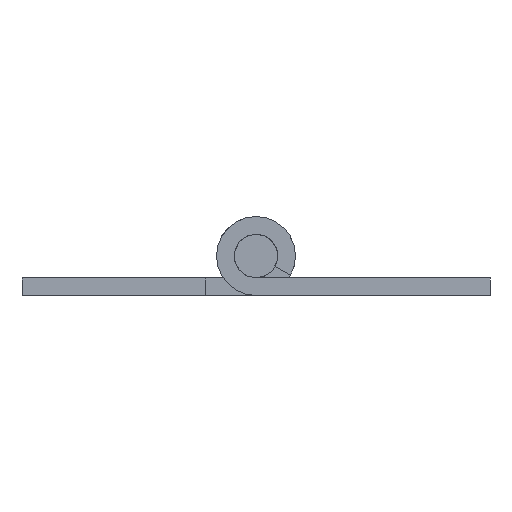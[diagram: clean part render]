
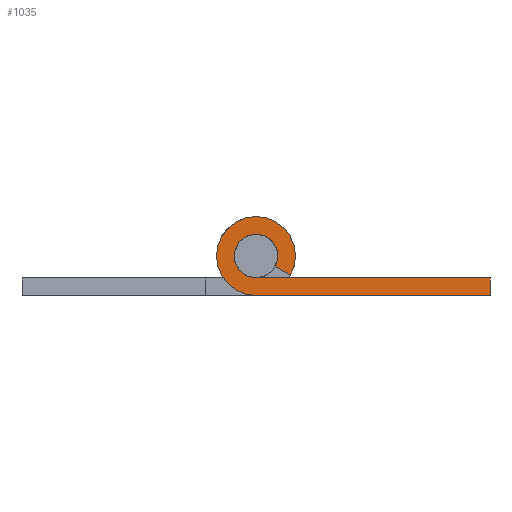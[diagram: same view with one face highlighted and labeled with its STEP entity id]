
A CAD part, front view. The second image highlights one B-rep face of the part: STEP entity #1035.
In plain terms, the highlighted planar face has unit normal (0, -1, 0).
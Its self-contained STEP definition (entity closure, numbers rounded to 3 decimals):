
#1035=ADVANCED_FACE('',(#2310),#2311,.T.);
#2310=FACE_OUTER_BOUND('',#3827,.T.);
#2311=PLANE('',#3828);
#3827=EDGE_LOOP('',(#7062,#7063,#7064,#7065,#7066,#7067,#7068,#7069));
#3828=AXIS2_PLACEMENT_3D('',#7070,#7071,#7072);
#7062=ORIENTED_EDGE('',*,*,#10527,.F.);
#7063=ORIENTED_EDGE('',*,*,#10544,.T.);
#7064=ORIENTED_EDGE('',*,*,#10361,.T.);
#7065=ORIENTED_EDGE('',*,*,#9561,.T.);
#7066=ORIENTED_EDGE('',*,*,#10540,.T.);
#7067=ORIENTED_EDGE('',*,*,#10535,.T.);
#7068=ORIENTED_EDGE('',*,*,#9556,.T.);
#7069=ORIENTED_EDGE('',*,*,#10542,.T.);
#7070=CARTESIAN_POINT('',(22.65,-900.0,0.));
#7071=DIRECTION('',(0.,-1.0,0.));
#7072=DIRECTION('',(0.0,0.,-1.0));
#9556=EDGE_CURVE('',#11547,#11544,#11548,.T.);
#9561=EDGE_CURVE('',#11556,#11553,#11557,.T.);
#10361=EDGE_CURVE('',#12832,#11556,#12833,.T.);
#10527=EDGE_CURVE('',#13007,#13009,#13010,.T.);
#10535=EDGE_CURVE('',#13019,#11547,#13020,.T.);
#10540=EDGE_CURVE('',#11553,#13019,#13025,.T.);
#10542=EDGE_CURVE('',#11544,#13009,#13027,.T.);
#10544=EDGE_CURVE('',#13007,#12832,#13029,.T.);
#11544=VERTEX_POINT('',#14519);
#11547=VERTEX_POINT('',#14523);
#11548=CIRCLE('',#14524,2.7);
#11553=VERTEX_POINT('',#14530);
#11556=VERTEX_POINT('',#14534);
#11557=CIRCLE('',#14535,1.5);
#12832=VERTEX_POINT('',#16224);
#12833=LINE('',#16225,#16226);
#13007=VERTEX_POINT('',#16469);
#13009=VERTEX_POINT('',#16472);
#13010=LINE('',#16473,#16474);
#13019=VERTEX_POINT('',#16486);
#13020=LINE('',#16487,#16488);
#13025=CIRCLE('',#16494,1.5);
#13027=CIRCLE('',#16496,2.7);
#13029=LINE('',#16498,#16499);
#14519=CARTESIAN_POINT('',(6.65,-900.0,5.4));
#14523=CARTESIAN_POINT('',(9.011,-900.0,1.391));
#14524=AXIS2_PLACEMENT_3D('',#18479,#18480,#18481);
#14530=CARTESIAN_POINT('',(6.65,-900.0,4.2));
#14534=CARTESIAN_POINT('',(6.65,-900.0,1.2));
#14535=AXIS2_PLACEMENT_3D('',#18487,#18488,#18489);
#16224=CARTESIAN_POINT('',(22.65,-900.0,1.2));
#16225=CARTESIAN_POINT('',(22.65,-900.0,1.2));
#16226=VECTOR('',#19615,16.);
#16469=CARTESIAN_POINT('',(22.65,-900.0,0.));
#16472=CARTESIAN_POINT('',(6.65,-900.0,0.));
#16473=CARTESIAN_POINT('',(22.65,-900.0,0.));
#16474=VECTOR('',#19698,16.);
#16486=CARTESIAN_POINT('',(7.962,-900.0,1.973));
#16487=CARTESIAN_POINT('',(7.962,-900.0,1.973));
#16488=VECTOR('',#19705,1.2);
#16494=AXIS2_PLACEMENT_3D('',#19710,#19711,#19712);
#16496=AXIS2_PLACEMENT_3D('',#19713,#19714,#19715);
#16498=CARTESIAN_POINT('',(22.65,-900.0,0.));
#16499=VECTOR('',#19716,1.2);
#18479=CARTESIAN_POINT('',(6.65,-900.0,2.7));
#18480=DIRECTION('',(0.,-1.0,0.));
#18481=DIRECTION('',(0.,0.,1.0));
#18487=CARTESIAN_POINT('',(6.65,-900.0,2.7));
#18488=DIRECTION('',(0.,1.0,0.));
#18489=DIRECTION('',(0.,0.,-1.0));
#19615=DIRECTION('',(-1.0,0.,0.));
#19698=DIRECTION('',(-1.0,0.,0.));
#19705=DIRECTION('',(0.875,0.,-0.485));
#19710=CARTESIAN_POINT('',(6.65,-900.0,2.7));
#19711=DIRECTION('',(0.,1.0,0.));
#19712=DIRECTION('',(0.,0.,-1.0));
#19713=CARTESIAN_POINT('',(6.65,-900.0,2.7));
#19714=DIRECTION('',(0.,-1.0,0.));
#19715=DIRECTION('',(0.,0.,1.0));
#19716=DIRECTION('',(0.,0.,1.0));
